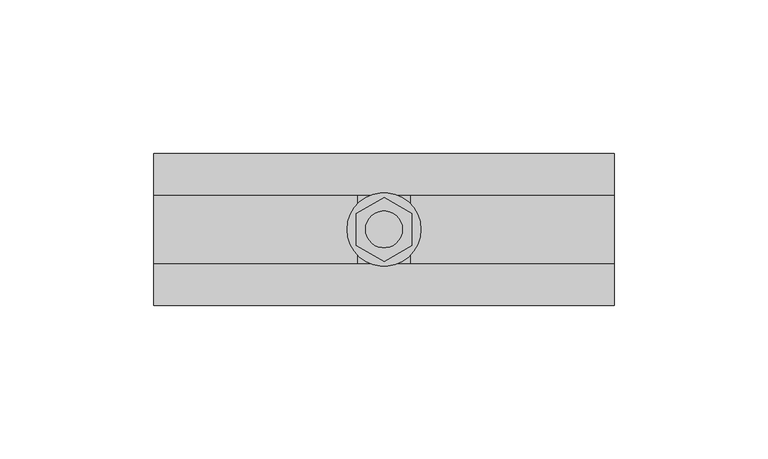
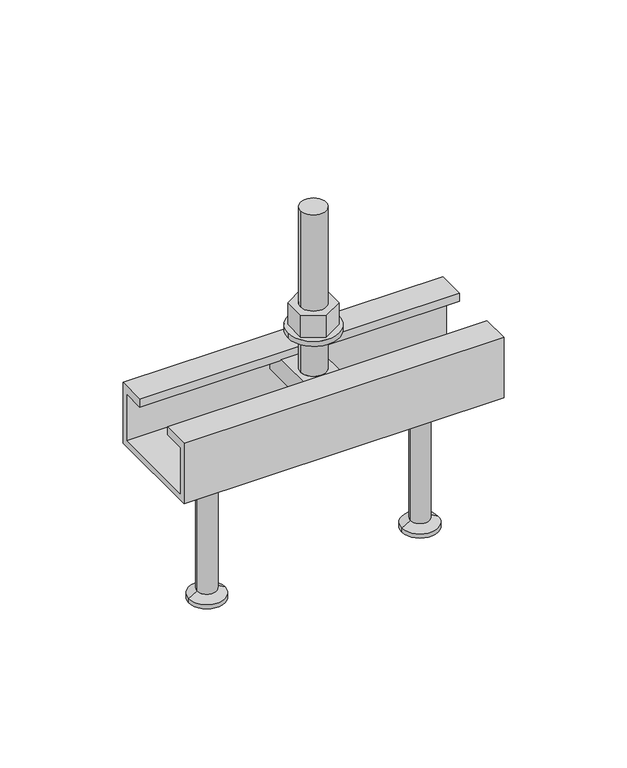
"""IFC4 building model written with IfcOpenShell, lengths in millimetres: fastener geometry, JTA-W JORDAHL® AnchorChannels : JTA-W L=150 mm."""

import ifcopenshell
import ifcopenshell.guid

model = None  # the IFC model being written
_history = None  # IfcOwnerHistory: only IFC2X3 demands one
_inside = {}  # id of a spatial element -> (the spatial element, [elements in it])
_under = {}  # id of a project, library or spatial element -> (it, [spatial elements below it])
_declared = {}  # id of a project -> (the project, [libraries it declares])
_typed = {}  # id of a type object -> (the type object, [elements of that type])
_made_of = {}  # id of a material, layer set ... -> (it, [elements and type objects made of it])


def new_model(schema):
    """Start an empty IFC model of exactly this schema.

    Asked for "IFC4X3", IfcOpenShell would pick the latest addendum, in which some entities
    have other attributes; the version numbers below select the first issue.
    IFC2X3 requires an IfcOwnerHistory on every rooted entity: one is made here for all.
    """
    global model, _history
    if schema == "IFC4X3":
        model = ifcopenshell.file(schema_version=(4, 3, 0, 0))
    else:
        model = ifcopenshell.file(schema=schema)
    _inside.clear()
    _under.clear()
    _declared.clear()
    _typed.clear()
    _made_of.clear()
    _history = None
    if model.schema == "IFC2X3":
        org = make("IfcOrganization", Name="unknown")
        user = make(
            "IfcPersonAndOrganization",
            ThePerson=make("IfcPerson", FamilyName="unknown"),
            TheOrganization=org,
        )
        app = make(
            "IfcApplication",
            ApplicationDeveloper=org,
            Version="unknown",
            ApplicationFullName="unknown",
            ApplicationIdentifier="unknown",
        )
        _history = make(
            "IfcOwnerHistory",
            OwningUser=user,
            OwningApplication=app,
            ChangeAction="ADDED",
            CreationDate=0,
        )
    return model


def make(cls, **values):
    """One entity of the class cls with the attributes given. An attribute that is None is left unset."""
    return model.create_entity(
        cls, **{name: value for name, value in values.items() if value is not None}
    )


def rooted(cls, **values):
    """An entity with a GlobalId (a new one), such as an element, a storey or a relation."""
    return make(cls, GlobalId=ifcopenshell.guid.new(), OwnerHistory=_history, **values)


def si_unit(unit_type, name, prefix=None):
    """IfcSIUnit, for example si_unit("LENGTHUNIT", "METRE", prefix="MILLI")."""
    return make("IfcSIUnit", UnitType=unit_type, Prefix=prefix, Name=name)


def assignment(units):
    """IfcUnitAssignment: the units of a project."""
    return None if units is None else make("IfcUnitAssignment", Units=units)


def point(xyz):
    """IfcCartesianPoint."""
    return None if xyz is None else make("IfcCartesianPoint", Coordinates=xyz)


def direction(xyz):
    """IfcDirection."""
    return None if xyz is None else make("IfcDirection", DirectionRatios=xyz)


def frame(location, z_axis=None, x_axis=None):
    """IfcAxis2Placement3D, a coordinate frame: its origin and axes. An axis left out is left unset."""
    return make(
        "IfcAxis2Placement3D",
        Location=point(location),
        Axis=direction(z_axis),
        RefDirection=direction(x_axis),
    )


def frame_2d(location, x_axis=None):
    """IfcAxis2Placement2D, a coordinate frame in the plane: its origin and x axis."""
    return make(
        "IfcAxis2Placement2D", Location=point(location), RefDirection=direction(x_axis)
    )


def origin():
    """The frame at (0, 0, 0) with its axes left unset."""
    return frame((0.0, 0.0, 0.0))


def place(relative_to, where):
    """IfcLocalPlacement: puts the frame where relative to a parent placement (None: the world)."""
    return make(
        "IfcLocalPlacement", PlacementRelTo=relative_to, RelativePlacement=where
    )


def context(
    kind, dimensions, precision=None, world=None, true_north=None, identifier=None
):
    """IfcGeometricRepresentationContext, for example the 3D "Model" context."""
    return make(
        "IfcGeometricRepresentationContext",
        ContextIdentifier=identifier,
        ContextType=kind,
        CoordinateSpaceDimension=dimensions,
        Precision=precision,
        WorldCoordinateSystem=world,
        TrueNorth=true_north,
    )


def project(units=None, contexts=None):
    """IfcProject with its units and contexts."""
    return rooted(
        "IfcProject",
        Name="project",
        RepresentationContexts=contexts,
        UnitsInContext=assignment(units),
    )


def spatial(cls, under=None, at=None, **own):
    """A site, building, storey or space (cls), placed at a placement, below another one or the project."""
    s = rooted(cls, ObjectPlacement=at, **own)
    if under is not None:
        _under.setdefault(under.id(), (under, []))[1].append(s)
    return s


def polyline(points):
    """IfcPolyline through the points."""
    return make("IfcPolyline", Points=[point(p) for p in points])


def circle_curve(where, radius):
    """IfcCircle in the frame where."""
    return make("IfcCircle", Position=where, Radius=radius)


def trimmed(basis, trim1, trim2, sense, master):
    """IfcTrimmedCurve: the piece of a basis curve between two trims."""
    return make(
        "IfcTrimmedCurve",
        BasisCurve=basis,
        Trim1=trim1,
        Trim2=trim2,
        SenseAgreement=sense,
        MasterRepresentation=master,
    )


def segment(curve, same_sense, transition):
    """IfcCompositeCurveSegment."""
    return make(
        "IfcCompositeCurveSegment",
        Transition=transition,
        SameSense=same_sense,
        ParentCurve=curve,
    )


def composite_curve(segments, self_intersect=None):
    """IfcCompositeCurve: segments joined end to end."""
    return make("IfcCompositeCurve", Segments=segments, SelfIntersect=self_intersect)


def outline(outer, holes=None, kind="AREA"):
    """IfcArbitraryClosedProfileDef: a profile drawn as a closed curve; with holes, ...WithVoids."""
    if holes is None:
        return make("IfcArbitraryClosedProfileDef", ProfileType=kind, OuterCurve=outer)
    return make(
        "IfcArbitraryProfileDefWithVoids",
        ProfileType=kind,
        OuterCurve=outer,
        InnerCurves=holes,
    )


def extrude(swept, where, along, depth):
    """IfcExtrudedAreaSolid: the profile swept, set in the frame where, extruded along a direction by depth."""
    return make(
        "IfcExtrudedAreaSolid",
        SweptArea=swept,
        Position=where,
        ExtrudedDirection=direction(along),
        Depth=depth,
    )


def shape(context_of_items, identifier, shape_type, items):
    """IfcShapeRepresentation: the items that make up one representation, for example the "Body"."""
    return make(
        "IfcShapeRepresentation",
        ContextOfItems=context_of_items,
        RepresentationIdentifier=identifier,
        RepresentationType=shape_type,
        Items=items,
    )


def source(mapping_origin, context_of_items, identifier, shape_type, items):
    """IfcRepresentationMap: a shape defined once, which mapped items show again and again."""
    return make(
        "IfcRepresentationMap",
        MappingOrigin=mapping_origin,
        MappedRepresentation=shape(context_of_items, identifier, shape_type, items),
    )


def transform(
    local_origin,
    x_axis=None,
    y_axis=None,
    z_axis=None,
    scale=None,
    scale2=None,
    scale3=None,
    uniform=True,
):
    """IfcCartesianTransformationOperator3D, or its non-uniform kind. x_axis, y_axis, z_axis: its Axis1, 2, 3."""
    if uniform:
        return make(
            "IfcCartesianTransformationOperator3D",
            Axis1=direction(x_axis),
            Axis2=direction(y_axis),
            LocalOrigin=point(local_origin),
            Scale=scale,
            Axis3=direction(z_axis),
        )
    return make(
        "IfcCartesianTransformationOperator3DnonUniform",
        Axis1=direction(x_axis),
        Axis2=direction(y_axis),
        LocalOrigin=point(local_origin),
        Scale=scale,
        Axis3=direction(z_axis),
        Scale2=scale2,
        Scale3=scale3,
    )


def mapped(mapping_source, mapping_target):
    """IfcMappedItem: shows the shape of a source again, moved by a transform."""
    return make(
        "IfcMappedItem", MappingSource=mapping_source, MappingTarget=mapping_target
    )


def made_of(thing, what):
    """Note that an element or type object is made of a material, layer set ...; save() writes the relation."""
    if what is not None:
        _made_of.setdefault(what.id(), (what, []))[1].append(thing)
    return thing


def element(
    cls,
    number,
    at=None,
    inside=None,
    cuts=None,
    type_object=None,
    material=None,
    context=None,
    identifier="Body",
    shape_type=None,
    held_by="IfcProductDefinitionShape",
    body=None,
    shapes=None,
    **own,
):
    """One element of the class cls, such as IfcWall. Its Tag is "e" and its number.

    at: its placement. inside: the storey or other place that contains it. cuts: it is an
    opening in that element (IfcRelVoidsElement). A single representation is given by context,
    identifier, shape_type and body (its items); several are given by shapes. held_by: the class
    of the entity that holds the representations. save() writes the other relations.
    """
    e = rooted(cls, Tag="e%d" % number, ObjectPlacement=at, **own)
    if body is not None:
        shapes = [shape(context, identifier, shape_type, body)]
    if shapes is not None:
        e.Representation = make(held_by, Representations=shapes)
    if inside is not None:
        _inside.setdefault(inside.id(), (inside, []))[1].append(e)
    if cuts is not None:
        rooted(
            "IfcRelVoidsElement", RelatingBuildingElement=cuts, RelatedOpeningElement=e
        )
    if type_object is not None:
        _typed.setdefault(type_object.id(), (type_object, []))[1].append(e)
    return made_of(e, material)


def aggregate(whole, parts):
    """IfcRelAggregates: a whole, such as a stair, and the parts it consists of."""
    return rooted("IfcRelAggregates", RelatingObject=whole, RelatedObjects=parts)


def save(model, path):
    """Write the relations noted so far, then the file.

    IfcRelAggregates (storeys below a building ...), IfcRelContainedInSpatialStructure (elements
    in a storey), IfcRelDefinesByType, IfcRelAssociatesMaterial and IfcRelDeclares: one each for
    every whole, place, type object, material and project.
    """
    for whole, parts in _under.values():
        aggregate(whole, parts)
    for where, things in _inside.values():
        rooted(
            "IfcRelContainedInSpatialStructure",
            RelatedElements=things,
            RelatingStructure=where,
        )
    for kind, things in _typed.values():
        rooted("IfcRelDefinesByType", RelatedObjects=things, RelatingType=kind)
    for what, things in _made_of.values():
        rooted("IfcRelAssociatesMaterial", RelatedObjects=things, RelatingMaterial=what)
    for by, libraries in _declared.values():
        rooted("IfcRelDeclares", RelatingContext=by, RelatedDefinitions=libraries)
    model.write(path)


def plane_surface(at):
    """IfcPlane: the flat surface through the origin of the frame at, square to its z axis."""
    return make("IfcPlane", Position=at)


def cylinder_surface(at, radius):
    """IfcCylindricalSurface: all points at the distance radius from the z axis of the frame at."""
    return make("IfcCylindricalSurface", Position=at, Radius=radius)


def revolved_surface(curve, axis_point, axis_direction):
    """IfcSurfaceOfRevolution: the curve turned about the line through axis_point along axis_direction."""
    return make(
        "IfcSurfaceOfRevolution",
        SweptCurve=make("IfcArbitraryOpenProfileDef", ProfileType="CURVE", Curve=curve),
        AxisPosition=make("IfcAxis1Placement", Location=point(axis_point), Axis=direction(axis_direction)),
    )


def advanced_brep(points, edges, surfaces, faces):
    """IfcAdvancedBrep: a solid bounded by faces that lie on surfaces and meet in shared edges.

    An edge is (start, end): straight between two places in points (the first is 0);
    or (start, end, curve); or (start, end, curve, False) where it runs against its curve.
    A face is (place in surfaces, loops), or (place, loops, False) where it looks against
    its surface's normal. A loop lists edges by number (the first is 1), with a minus sign
    where the edge is run from its end to its start. The first loop is the outer one.
    """
    corners = [point(p) for p in points]
    vertices = [make("IfcVertexPoint", VertexGeometry=c) for c in corners]
    made = []
    for start, end, *more in edges:
        made.append(
            make(
                "IfcEdgeCurve",
                EdgeStart=vertices[start],
                EdgeEnd=vertices[end],
                EdgeGeometry=more[0] if more else make("IfcPolyline", Points=[corners[start], corners[end]]),
                SameSense=more[1] if len(more) > 1 else True,
            )
        )
    hull = []
    for where, loops, *sense in faces:
        bounds = []
        for j, loop in enumerate(loops):
            ring = [make("IfcOrientedEdge", EdgeElement=made[abs(k) - 1], Orientation=k > 0) for k in loop]
            bounds.append(
                make(
                    "IfcFaceOuterBound" if j == 0 else "IfcFaceBound",
                    Bound=make("IfcEdgeLoop", EdgeList=ring),
                    Orientation=True,
                )
            )
        hull.append(make("IfcAdvancedFace", Bounds=bounds, FaceSurface=surfaces[where], SameSense=sense[0] if sense else True))
    return make("IfcAdvancedBrep", Outer=make("IfcClosedShell", CfsFaces=hull))


def fastener_bc0e0492(model_context):
    return source(origin(), model_context, "Body", "SolidModel", [
        extrude(outline(polyline([(75.0, -10.3923048), (66.0, -5.1961524), (66.0, 5.1961524), (75.0, 10.3923048), (84.0, 5.1961524), (84.0, -5.1961524), (75.0, -10.3923048)]), holes=[composite_curve([segment(trimmed(circle_curve(frame_2d((75.0, 0.0)), 6.0), [point((69.0, 0.0))], [point((81.0, 0.0))], True, "CARTESIAN"), True, "CONTINUOUS"), segment(trimmed(circle_curve(frame_2d((75.0, 0.0)), 6.0), [point((81.0, 0.0))], [point((69.0, 0.0))], True, "CARTESIAN"), True, "CONTINUOUS")], self_intersect=False)]), frame((0.0, 0.0, 17.5), z_axis=(0.0, 0.0, 1.0), x_axis=(1.0, 0.0, 0.0)), (0.0, 0.0, 1.0), 10.8),
        extrude(outline(composite_curve([segment(trimmed(circle_curve(frame_2d((75.0, 0.0)), 12.0), [point((63.0, 0.0))], [point((87.0, 0.0))], False, "CARTESIAN"), True, "CONTINUOUS"), segment(trimmed(circle_curve(frame_2d((75.0, 0.0)), 12.0), [point((87.0, 0.0))], [point((63.0, 0.0))], False, "CARTESIAN"), True, "CONTINUOUS")], self_intersect=False), holes=[composite_curve([segment(trimmed(circle_curve(frame_2d((75.0, 0.0)), 6.5), [point((68.5, 0.0))], [point((81.5, 0.0))], True, "CARTESIAN"), True, "CONTINUOUS"), segment(trimmed(circle_curve(frame_2d((75.0, 0.0)), 6.5), [point((81.5, 0.0))], [point((68.5, 0.0))], True, "CARTESIAN"), True, "CONTINUOUS")], self_intersect=False)]), frame((0.0, 0.0, 15.0), z_axis=(0.0, 0.0, 1.0), x_axis=(1.0, 0.0, 0.0)), (0.0, 0.0, 1.0), 2.5),
        advanced_brep(
        [(83.5, -20.7, -4.0), (83.5, -20.7, -14.0), (83.5, 20.7, -14.0), (83.5, 20.7, -4.0), (66.5, -20.7, -4.0), (66.5, 20.7, -4.0), (66.5, 20.7, -14.0), (66.5, -20.7, -14.0), (81.0, 0.0, -4.0), (69.0, 0.0, -4.0), (69.0, 0.0, 76.0), (81.0, 0.0, 76.0)],
        [
            (0, 1),
            (1, 2),
            (2, 3),
            (3, 0),
            (4, 5),
            (5, 6),
            (6, 7),
            (7, 4),
            (3, 5),
            (4, 0),
            (8, 9, circle_curve(frame((75.0, 0.0, -4.0), z_axis=(0.0, 0.0, -1.0), x_axis=(1.0, 0.0, 0.0)), 6.0)),
            (9, 8, circle_curve(frame((75.0, 0.0, -4.0), z_axis=(0.0, 0.0, -1.0), x_axis=(1.0, 0.0, 0.0)), 6.0)),
            (2, 6),
            (1, 7),
            (10, 11, circle_curve(frame((75.0, 0.0, 76.0), z_axis=(0.0, 0.0, 1.0), x_axis=(1.0, 0.0, 0.0)), 6.0)),
            (11, 10, circle_curve(frame((75.0, 0.0, 76.0), z_axis=(0.0, 0.0, 1.0), x_axis=(1.0, 0.0, 0.0)), 6.0)),
            (11, 8),
            (9, 10),
        ],
        [
            plane_surface(frame((83.5, 20.7, -4.0), z_axis=(1.0, 0.0, 0.0), x_axis=(0.0, 1.0, 0.0))),
            plane_surface(frame((66.5, 20.7, -4.0), z_axis=(-1.0, 0.0, 0.0), x_axis=(0.0, -1.0, 0.0))),
            plane_surface(frame((83.5, -20.7, -4.0), z_axis=(0.0, 0.0, 1.0), x_axis=(-1.0, 0.0, 0.0))),
            plane_surface(frame((83.5, 20.7, -4.0), z_axis=(0.0, 1.0, 0.0), x_axis=(-1.0, 0.0, 0.0))),
            plane_surface(frame((83.5, 20.7, -14.0), z_axis=(0.0, 0.0, -1.0), x_axis=(-1.0, 0.0, 0.0))),
            plane_surface(frame((83.5, -20.7, -14.0), z_axis=(0.0, -1.0, 0.0), x_axis=(-1.0, 0.0, 0.0))),
            plane_surface(frame((81.0, 0.0, 76.0), z_axis=(0.0, 0.0, 1.0), x_axis=(0.0, -1.0, 0.0))),
            cylinder_surface(frame((75.0, 0.0, -4.0), z_axis=(0.0, 0.0, 1.0), x_axis=(1.0, 0.0, 0.0)), 6.0),
        ],
        [
            (0, [[1, 2, 3, 4]]),
            (1, [[5, 6, 7, 8]]),
            (2, [[9, -5, 10, -4], [11, 12]]),
            (3, [[13, -6, -9, -3]]),
            (4, [[14, -7, -13, -2]]),
            (5, [[-10, -8, -14, -1]]),
            (6, [[15, 16]]),
            (7, [[17, -12, 18, -16]]),
            (7, [[-18, -11, -17, -15]]),
        ],
    ),
        advanced_brep(
        [(125.0, 0.0, -30.0), (111.5, 0.0, -30.0), (138.5, 0.0, -30.0), (116.5, 0.0, -100.0), (125.0, 0.0, -100.0), (133.5, 0.0, -100.0), (116.5, 0.0, -98.0), (133.5, 0.0, -98.0), (120.5, 0.0, -95.6905989), (129.5, 0.0, -95.6905989), (120.5, 0.0, -32.5), (129.5, 0.0, -32.5)],
        [
            (0, 1),
            (1, 2, circle_curve(frame((125.0, 0.0, -30.0), z_axis=(0.0, 0.0, 1.0), x_axis=(1.0, 0.0, 0.0)), 13.5)),
            (2, 0),
            (2, 1, circle_curve(frame((125.0, 0.0, -30.0), z_axis=(0.0, 0.0, 1.0), x_axis=(1.0, 0.0, 0.0)), 13.5)),
            (3, 4),
            (4, 5),
            (5, 3, circle_curve(frame((125.0, 0.0, -100.0), z_axis=(0.0, 0.0, -1.0), x_axis=(1.0, 0.0, 0.0)), 8.5)),
            (3, 5, circle_curve(frame((125.0, 0.0, -100.0), z_axis=(0.0, 0.0, -1.0), x_axis=(1.0, 0.0, 0.0)), 8.5)),
            (6, 3),
            (5, 7),
            (7, 6, circle_curve(frame((125.0, 0.0, -98.0), z_axis=(0.0, 0.0, -1.0), x_axis=(1.0, 0.0, 0.0)), 8.5)),
            (6, 7, circle_curve(frame((125.0, 0.0, -98.0), z_axis=(0.0, 0.0, -1.0), x_axis=(1.0, 0.0, 0.0)), 8.5)),
            (8, 6),
            (7, 9),
            (9, 8, circle_curve(frame((125.0, 0.0, -95.6905989), z_axis=(0.0, 0.0, -1.0), x_axis=(1.0, 0.0, 0.0)), 4.5)),
            (8, 9, circle_curve(frame((125.0, 0.0, -95.6905989), z_axis=(0.0, 0.0, -1.0), x_axis=(1.0, 0.0, 0.0)), 4.5)),
            (10, 8),
            (9, 11),
            (11, 10, circle_curve(frame((125.0, 0.0, -32.5), z_axis=(0.0, 0.0, -1.0), x_axis=(1.0, 0.0, 0.0)), 4.5)),
            (10, 11, circle_curve(frame((125.0, 0.0, -32.5), z_axis=(0.0, 0.0, -1.0), x_axis=(1.0, 0.0, 0.0)), 4.5)),
            (1, 10),
            (11, 2),
        ],
        [
            plane_surface(frame((125.0, 0.0, -30.0), z_axis=(0.0, 0.0, 1.0), x_axis=(1.0, 0.0, 0.0))),
            plane_surface(frame((125.0, 0.0, -100.0), z_axis=(0.0, 0.0, -1.0), x_axis=(1.0, 0.0, 0.0))),
            cylinder_surface(frame((125.0, 0.0, 2284.3150031), z_axis=(0.0, 0.0, 1.0), x_axis=(1.0, 0.0, 0.0)), 8.5),
            revolved_surface(polyline([(133.5, 0.0, -98.0), (129.5, 0.0, -95.6905989)]), (125.0, 0.0, 2284.3150031), (0.0, 0.0, 1.0)),
            cylinder_surface(frame((125.0, 0.0, 2284.3150031), z_axis=(0.0, 0.0, 1.0), x_axis=(1.0, 0.0, 0.0)), 4.5),
            revolved_surface(polyline([(129.5, 0.0, -32.5), (138.5, 0.0, -30.0)]), (125.0, 0.0, 2284.3150031), (0.0, 0.0, 1.0)),
        ],
        [
            (0, [[1, 2, 3]]),
            (0, [[-3, 4, -1]]),
            (1, [[5, 6, 7]]),
            (1, [[-6, -5, 8]]),
            (2, [[9, -7, 10, 11]]),
            (2, [[-10, -8, -9, 12]]),
            (3, [[13, -11, 14, 15]]),
            (3, [[-14, -12, -13, 16]]),
            (4, [[17, -15, 18, 19]]),
            (4, [[-18, -16, -17, 20]]),
            (5, [[21, -19, 22, -2]]),
            (5, [[-22, -20, -21, -4]]),
        ],
    ),
        advanced_brep(
        [(25.0, 0.0, -30.0), (11.5, 0.0, -30.0), (38.5, 0.0, -30.0), (16.5, 0.0, -100.0), (25.0, 0.0, -100.0), (33.5, 0.0, -100.0), (16.5, 0.0, -98.0), (33.5, 0.0, -98.0), (20.5, 0.0, -95.6905989), (29.5, 0.0, -95.6905989), (20.5, 0.0, -32.5), (29.5, 0.0, -32.5)],
        [
            (0, 1),
            (1, 2, circle_curve(frame((25.0, 0.0, -30.0), z_axis=(0.0, 0.0, 1.0), x_axis=(1.0, 0.0, 0.0)), 13.5)),
            (2, 0),
            (2, 1, circle_curve(frame((25.0, 0.0, -30.0), z_axis=(0.0, 0.0, 1.0), x_axis=(1.0, 0.0, 0.0)), 13.5)),
            (3, 4),
            (4, 5),
            (5, 3, circle_curve(frame((25.0, 0.0, -100.0), z_axis=(0.0, 0.0, -1.0), x_axis=(1.0, 0.0, 0.0)), 8.5)),
            (3, 5, circle_curve(frame((25.0, 0.0, -100.0), z_axis=(0.0, 0.0, -1.0), x_axis=(1.0, 0.0, 0.0)), 8.5)),
            (6, 3),
            (5, 7),
            (7, 6, circle_curve(frame((25.0, 0.0, -98.0), z_axis=(0.0, 0.0, -1.0), x_axis=(1.0, 0.0, 0.0)), 8.5)),
            (6, 7, circle_curve(frame((25.0, 0.0, -98.0), z_axis=(0.0, 0.0, -1.0), x_axis=(1.0, 0.0, 0.0)), 8.5)),
            (8, 6),
            (7, 9),
            (9, 8, circle_curve(frame((25.0, 0.0, -95.6905989), z_axis=(0.0, 0.0, -1.0), x_axis=(1.0, 0.0, 0.0)), 4.5)),
            (8, 9, circle_curve(frame((25.0, 0.0, -95.6905989), z_axis=(0.0, 0.0, -1.0), x_axis=(1.0, 0.0, 0.0)), 4.5)),
            (10, 8),
            (9, 11),
            (11, 10, circle_curve(frame((25.0, 0.0, -32.5), z_axis=(0.0, 0.0, -1.0), x_axis=(1.0, 0.0, 0.0)), 4.5)),
            (10, 11, circle_curve(frame((25.0, 0.0, -32.5), z_axis=(0.0, 0.0, -1.0), x_axis=(1.0, 0.0, 0.0)), 4.5)),
            (1, 10),
            (11, 2),
        ],
        [
            plane_surface(frame((25.0, 0.0, -30.0), z_axis=(0.0, 0.0, 1.0), x_axis=(1.0, 0.0, 0.0))),
            plane_surface(frame((25.0, 0.0, -100.0), z_axis=(0.0, 0.0, -1.0), x_axis=(1.0, 0.0, 0.0))),
            cylinder_surface(frame((25.0, 0.0, 2284.3150031), z_axis=(0.0, 0.0, 1.0), x_axis=(1.0, 0.0, 0.0)), 8.5),
            revolved_surface(polyline([(33.5, 0.0, -98.0), (29.5, 0.0, -95.6905989)]), (25.0, 0.0, 2284.3150031), (0.0, 0.0, 1.0)),
            cylinder_surface(frame((25.0, 0.0, 2284.3150031), z_axis=(0.0, 0.0, 1.0), x_axis=(1.0, 0.0, 0.0)), 4.5),
            revolved_surface(polyline([(29.5, 0.0, -32.5), (38.5, 0.0, -30.0)]), (25.0, 0.0, 2284.3150031), (0.0, 0.0, 1.0)),
        ],
        [
            (0, [[1, 2, 3]]),
            (0, [[-3, 4, -1]]),
            (1, [[5, 6, 7]]),
            (1, [[-6, -5, 8]]),
            (2, [[9, -7, 10, 11]]),
            (2, [[-10, -8, -9, 12]]),
            (3, [[13, -11, 14, 15]]),
            (3, [[-14, -12, -13, 16]]),
            (4, [[17, -15, 18, 19]]),
            (4, [[-18, -16, -17, 20]]),
            (5, [[21, -19, 22, -2]]),
            (5, [[-22, -20, -21, -4]]),
        ],
    ),
        extrude(outline(polyline([(-24.75, 0.0), (-11.25, 0.0), (-11.25, -4.0), (-21.95, -4.0), (-21.95, -27.2), (21.95, -27.2), (21.95, -4.0), (11.25, -4.0), (11.25, 0.0), (24.75, 0.0), (24.75, -30.0), (-24.75, -30.0), (-24.75, 0.0)])), frame((0.0, 0.0, 0.0), z_axis=(1.0, 0.0, 0.0), x_axis=(0.0, 1.0, 0.0)), (0.0, 0.0, 1.0), 150.0),
    ])


if __name__ == "__main__":
    model = new_model("IFC4")
    model_context = context("Model", 3, world=origin())
    ifc_project = project(units=[si_unit("LENGTHUNIT", "METRE", prefix="MILLI")], contexts=[model_context])
    site = spatial("IfcSite", under=ifc_project)
    building = spatial("IfcBuilding", under=site)
    placement = place(None, origin())
    fastener_shape = fastener_bc0e0492(model_context)
    element("IfcFastener", 1, ObjectType="JTA-W JORDAHL® AnchorChannels : JTA-W L=150 mm", at=placement, inside=building, context=model_context, shape_type="MappedRepresentation", body=[
        mapped(fastener_shape, transform((0.0, 0.0, 0.0), x_axis=(1.0, 0.0, 0.0), y_axis=(0.0, 1.0, 0.0), z_axis=(0.0, 0.0, 1.0))),
    ])
    save(model, "model.ifc")
